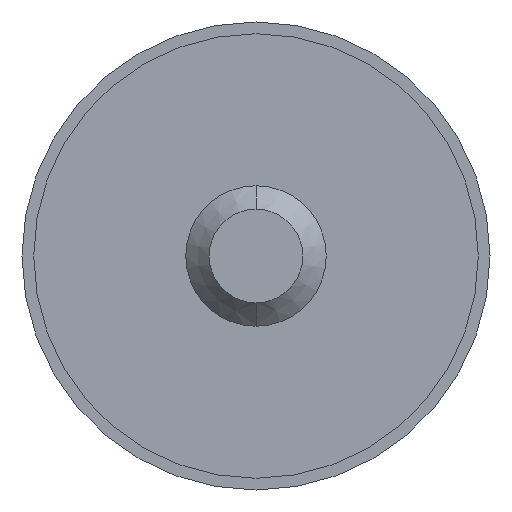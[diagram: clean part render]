
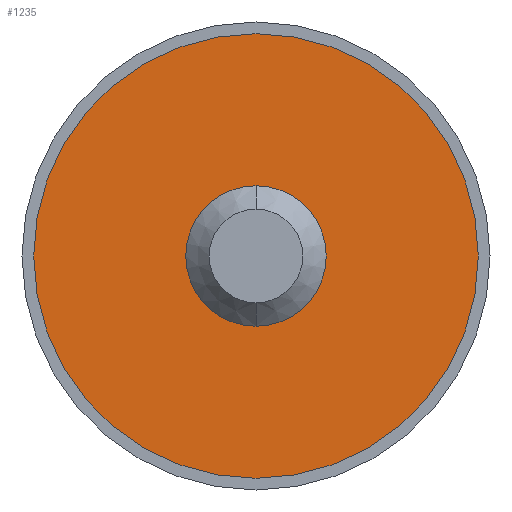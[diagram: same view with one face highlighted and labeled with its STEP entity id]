
A CAD part, front view. The second image highlights one B-rep face of the part: STEP entity #1235.
In plain terms, the highlighted planar face has unit normal (0, -1, 0).
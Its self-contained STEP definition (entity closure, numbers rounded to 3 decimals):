
#104 = DIRECTION ( 'NONE',  ( 0., 1., 0. ) ) ;
#190 = EDGE_LOOP ( 'NONE', ( #569, #1647 ) ) ;
#208 = CIRCLE ( 'NONE', #3298, 9.5 ) ;
#269 = VERTEX_POINT ( 'NONE', #1052 ) ;
#347 = EDGE_CURVE ( 'NONE', #2339, #1140, #1372, .T. ) ;
#385 = EDGE_LOOP ( 'NONE', ( #3022, #2238 ) ) ;
#419 = FACE_BOUND ( 'NONE', #385, .T. ) ;
#540 = CIRCLE ( 'NONE', #1470, 3. ) ;
#569 = ORIENTED_EDGE ( 'NONE', *, *, #2607, .F. ) ;
#577 = VERTEX_POINT ( 'NONE', #3904 ) ;
#638 = AXIS2_PLACEMENT_3D ( 'NONE', #3320, #3622, #2072 ) ;
#680 = DIRECTION ( 'NONE',  ( 0., 0., -1. ) ) ;
#716 = CARTESIAN_POINT ( 'NONE',  ( 0., -1., 0. ) ) ;
#974 = CARTESIAN_POINT ( 'NONE',  ( 0., -1., 0. ) ) ;
#1016 = DIRECTION ( 'NONE',  ( 0., 0., 1. ) ) ;
#1038 = CIRCLE ( 'NONE', #1051, 9.5 ) ;
#1051 = AXIS2_PLACEMENT_3D ( 'NONE', #3594, #1795, #1550 ) ;
#1052 = CARTESIAN_POINT ( 'NONE',  ( 0., -1., -9.5 ) ) ;
#1140 = VERTEX_POINT ( 'NONE', #3138 ) ;
#1235 = ADVANCED_FACE ( 'NONE', ( #419, #1359 ), #3256, .F. ) ;
#1238 = EDGE_CURVE ( 'NONE', #269, #577, #1038, .T. ) ;
#1359 = FACE_OUTER_BOUND ( 'NONE', #190, .T. ) ;
#1372 = CIRCLE ( 'NONE', #3786, 3. ) ;
#1470 = AXIS2_PLACEMENT_3D ( 'NONE', #974, #2479, #680 ) ;
#1524 = CARTESIAN_POINT ( 'NONE',  ( 0., -1., 3. ) ) ;
#1550 = DIRECTION ( 'NONE',  ( 0., 0., 1. ) ) ;
#1647 = ORIENTED_EDGE ( 'NONE', *, *, #1238, .F. ) ;
#1678 = CARTESIAN_POINT ( 'NONE',  ( 0., -1., 0. ) ) ;
#1705 = DIRECTION ( 'NONE',  ( 0., 0., -1. ) ) ;
#1795 = DIRECTION ( 'NONE',  ( 0., 1., 0. ) ) ;
#2072 = DIRECTION ( 'NONE',  ( 0., 0., 1. ) ) ;
#2238 = ORIENTED_EDGE ( 'NONE', *, *, #3261, .F. ) ;
#2339 = VERTEX_POINT ( 'NONE', #1524 ) ;
#2479 = DIRECTION ( 'NONE',  ( 0., -1., 0. ) ) ;
#2607 = EDGE_CURVE ( 'NONE', #577, #269, #208, .T. ) ;
#2874 = DIRECTION ( 'NONE',  ( 0., -1., 0. ) ) ;
#3022 = ORIENTED_EDGE ( 'NONE', *, *, #347, .F. ) ;
#3138 = CARTESIAN_POINT ( 'NONE',  ( 0., -1., -3. ) ) ;
#3256 = PLANE ( 'NONE',  #638 ) ;
#3261 = EDGE_CURVE ( 'NONE', #1140, #2339, #540, .T. ) ;
#3298 = AXIS2_PLACEMENT_3D ( 'NONE', #716, #104, #1016 ) ;
#3320 = CARTESIAN_POINT ( 'NONE',  ( 0., -1., 0. ) ) ;
#3594 = CARTESIAN_POINT ( 'NONE',  ( 0., -1., 0. ) ) ;
#3622 = DIRECTION ( 'NONE',  ( 0., 1., 0. ) ) ;
#3786 = AXIS2_PLACEMENT_3D ( 'NONE', #1678, #2874, #1705 ) ;
#3904 = CARTESIAN_POINT ( 'NONE',  ( 0., -1., 9.5 ) ) ;
